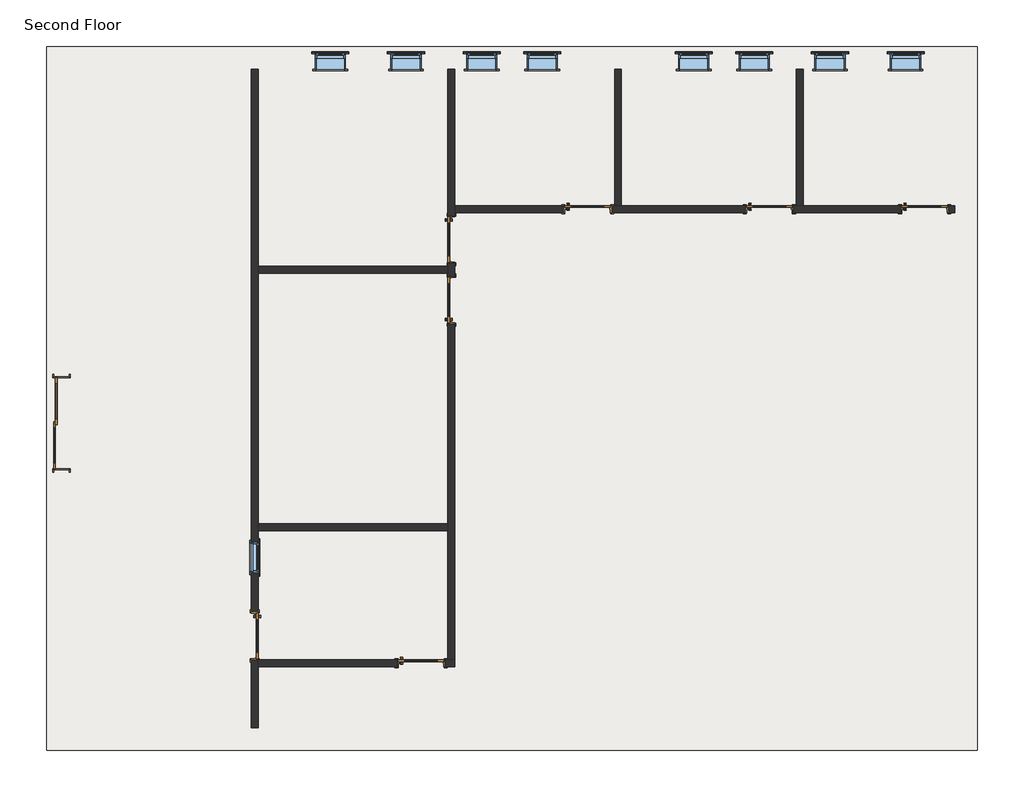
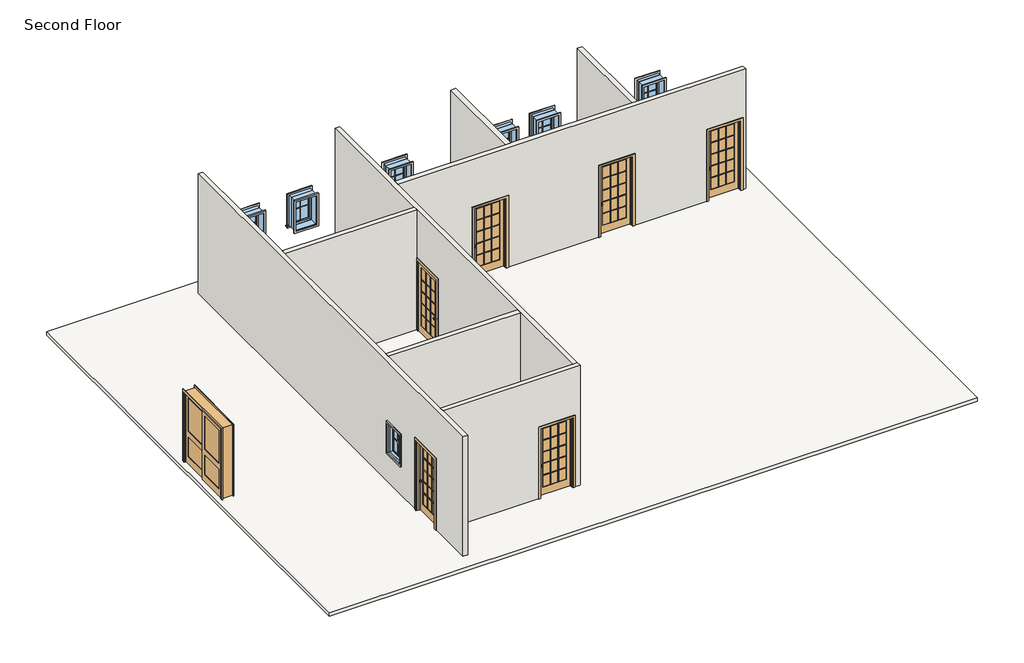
# One storey: 27 proxies, 9 windows, 8 doors, 8 walls, 1 slab.
"""IFC4 building model written with IfcOpenShell, lengths in millimetres."""

from ifc_helpers import new_model, si_unit, frame, origin, place, context, project, spatial, polyline, outline, extrude, faceted_brep, transform, mapped, element, save
from components import muntin_pattern_2x2_muntin_pattern_2x2_cf4092f1, muntin_pattern_2x2_muntin_pattern_2x2_49143b38, trim_window_exterior_flat_with_sill_a665a915, trim_window_exterior_flat_with_sill_4c72db77, trim_window_interior_flat_picture_frame_d485c387, trim_window_interior_flat_picture_frame_dfd23ff3, door_956c32c9, door_918c180d, door_79dd3e86, window_d7bc73cd, window_8e02f281, window_2fd3c40a

model = new_model("IFC4")

# Units and contexts
model_context = context("Model", 3, world=origin())
ifc_project = project(units=[si_unit("LENGTHUNIT", "METRE", prefix="MILLI")], contexts=[model_context])

# Site, building, storey
site = spatial("IfcSite", under=ifc_project)
building = spatial("IfcBuilding", under=site)
storey = spatial("IfcBuildingStorey", under=building, Name="Second Floor", Elevation=7315.2)

# Proxies
placement = place(None, origin())
muntin_pattern_2x2_muntin_pattern_2x2_shape = muntin_pattern_2x2_muntin_pattern_2x2_cf4092f1(model_context)
element("IfcBuildingElementProxy", 1, Name="Muntin Pattern_2x2 : Muntin Pattern_2x2", ObjectType="Muntin Pattern_2x2 : Muntin Pattern_2x2", at=placement, inside=storey, context=model_context, shape_type="MappedRepresentation", body=[
    mapped(muntin_pattern_2x2_muntin_pattern_2x2_shape, transform((-14168.6597136, 1858.8705992, 8299.45), x_axis=(0.0, -1.0, 0.0), y_axis=(1.0, 0.0, 0.0), z_axis=(0.0, 0.0, 1.0))),
])
element("IfcBuildingElementProxy", 2, Name="Muntin Pattern_2x2 : Muntin Pattern_2x2", ObjectType="Muntin Pattern_2x2 : Muntin Pattern_2x2", at=placement, inside=storey, context=model_context, shape_type="MappedRepresentation", body=[
    mapped(muntin_pattern_2x2_muntin_pattern_2x2_shape, transform((-1122.5847136, 11991.8830992, 8299.45), x_axis=(1.0, 0.0, 0.0), y_axis=(0.0, 1.0, 0.0), z_axis=(0.0, 0.0, 1.0))),
])
element("IfcBuildingElementProxy", 3, Name="Muntin Pattern_2x2 : Muntin Pattern_2x2", ObjectType="Muntin Pattern_2x2 : Muntin Pattern_2x2", at=placement, inside=storey, context=model_context, shape_type="MappedRepresentation", body=[
    mapped(muntin_pattern_2x2_muntin_pattern_2x2_shape, transform((-2646.5847136, 11991.8830992, 8299.45), x_axis=(1.0, 0.0, 0.0), y_axis=(0.0, 1.0, 0.0), z_axis=(0.0, 0.0, 1.0))),
])
element("IfcBuildingElementProxy", 4, Name="Muntin Pattern_2x2 : Muntin Pattern_2x2", ObjectType="Muntin Pattern_2x2 : Muntin Pattern_2x2", at=placement, inside=storey, context=model_context, shape_type="MappedRepresentation", body=[
    mapped(muntin_pattern_2x2_muntin_pattern_2x2_shape, transform((-4170.5847136, 11991.8830992, 8299.45), x_axis=(1.0, 0.0, 0.0), y_axis=(0.0, 1.0, 0.0), z_axis=(0.0, 0.0, 1.0))),
])
element("IfcBuildingElementProxy", 5, Name="Muntin Pattern_2x2 : Muntin Pattern_2x2", ObjectType="Muntin Pattern_2x2 : Muntin Pattern_2x2", at=placement, inside=storey, context=model_context, shape_type="MappedRepresentation", body=[
    mapped(muntin_pattern_2x2_muntin_pattern_2x2_shape, transform((-5389.7847136, 11991.8830992, 8299.45), x_axis=(1.0, 0.0, 0.0), y_axis=(0.0, 1.0, 0.0), z_axis=(0.0, 0.0, 1.0))),
])
muntin_pattern_2x2_muntin_pattern_2x2_2_shape = muntin_pattern_2x2_muntin_pattern_2x2_49143b38(model_context)
element("IfcBuildingElementProxy", 6, Name="Muntin Pattern_2x2 : Muntin Pattern_2x2", ObjectType="Muntin Pattern_2x2 : Muntin Pattern_2x2", at=placement, inside=storey, context=model_context, shape_type="MappedRepresentation", body=[
    mapped(muntin_pattern_2x2_muntin_pattern_2x2_2_shape, transform((-12704.9847136, 11991.8830992, 8299.45), x_axis=(-1.0, 0.0, 0.0), y_axis=(0.0, -1.0, 0.0), z_axis=(0.0, 0.0, 1.0))),
])
element("IfcBuildingElementProxy", 7, Name="Muntin Pattern_2x2 : Muntin Pattern_2x2", ObjectType="Muntin Pattern_2x2 : Muntin Pattern_2x2", at=placement, inside=storey, context=model_context, shape_type="MappedRepresentation", body=[
    mapped(muntin_pattern_2x2_muntin_pattern_2x2_2_shape, transform((-11180.9847136, 11991.8830992, 8299.45), x_axis=(-1.0, 0.0, 0.0), y_axis=(0.0, -1.0, 0.0), z_axis=(0.0, 0.0, 1.0))),
])
element("IfcBuildingElementProxy", 8, Name="Muntin Pattern_2x2 : Muntin Pattern_2x2", ObjectType="Muntin Pattern_2x2 : Muntin Pattern_2x2", at=placement, inside=storey, context=model_context, shape_type="MappedRepresentation", body=[
    mapped(muntin_pattern_2x2_muntin_pattern_2x2_2_shape, transform((-9656.9847136, 11991.8830992, 8299.45), x_axis=(-1.0, 0.0, 0.0), y_axis=(0.0, -1.0, 0.0), z_axis=(0.0, 0.0, 1.0))),
])
element("IfcBuildingElementProxy", 9, Name="Muntin Pattern_2x2 : Muntin Pattern_2x2", ObjectType="Muntin Pattern_2x2 : Muntin Pattern_2x2", at=placement, inside=storey, context=model_context, shape_type="MappedRepresentation", body=[
    mapped(muntin_pattern_2x2_muntin_pattern_2x2_2_shape, transform((-8437.7847136, 11991.8830992, 8299.45), x_axis=(-1.0, 0.0, 0.0), y_axis=(0.0, -1.0, 0.0), z_axis=(0.0, 0.0, 1.0))),
])
trim_window_exterior_flat_with_sill_shape = trim_window_exterior_flat_with_sill_a665a915(model_context)
element("IfcBuildingElementProxy", 10, Name="Trim-Window-Exterior-Flat : with Sill", ObjectType="Trim-Window-Exterior-Flat : with Sill", at=placement, inside=storey, context=model_context, shape_type="MappedRepresentation", body=[
    mapped(trim_window_exterior_flat_with_sill_shape, transform((-14159.1347136, 1858.8705992, 9144.0), x_axis=(0.0, 1.0, 0.0), y_axis=(0.0, 0.0, 1.0), z_axis=(1.0, 0.0, 0.0))),
])
element("IfcBuildingElementProxy", 11, Name="Trim-Window-Exterior-Flat : with Sill", ObjectType="Trim-Window-Exterior-Flat : with Sill", at=placement, inside=storey, context=model_context, shape_type="MappedRepresentation", body=[
    mapped(trim_window_exterior_flat_with_sill_shape, transform((-1122.5847136, 12001.4080992, 9144.0), x_axis=(-1.0, 0.0, 0.0), y_axis=(0.0, 0.0, 1.0), z_axis=(0.0, 1.0, 0.0))),
])
element("IfcBuildingElementProxy", 12, Name="Trim-Window-Exterior-Flat : with Sill", ObjectType="Trim-Window-Exterior-Flat : with Sill", at=placement, inside=storey, context=model_context, shape_type="MappedRepresentation", body=[
    mapped(trim_window_exterior_flat_with_sill_shape, transform((-2646.5847136, 12001.4080992, 9144.0), x_axis=(-1.0, 0.0, 0.0), y_axis=(0.0, 0.0, 1.0), z_axis=(0.0, 1.0, 0.0))),
])
element("IfcBuildingElementProxy", 13, Name="Trim-Window-Exterior-Flat : with Sill", ObjectType="Trim-Window-Exterior-Flat : with Sill", at=placement, inside=storey, context=model_context, shape_type="MappedRepresentation", body=[
    mapped(trim_window_exterior_flat_with_sill_shape, transform((-4170.5847136, 12001.4080992, 9144.0), x_axis=(-1.0, 0.0, 0.0), y_axis=(0.0, 0.0, 1.0), z_axis=(0.0, 1.0, 0.0))),
])
element("IfcBuildingElementProxy", 14, Name="Trim-Window-Exterior-Flat : with Sill", ObjectType="Trim-Window-Exterior-Flat : with Sill", at=placement, inside=storey, context=model_context, shape_type="MappedRepresentation", body=[
    mapped(trim_window_exterior_flat_with_sill_shape, transform((-5389.7847136, 12001.4080992, 9144.0), x_axis=(-1.0, 0.0, 0.0), y_axis=(0.0, 0.0, 1.0), z_axis=(0.0, 1.0, 0.0))),
])
trim_window_exterior_flat_with_sill_2_shape = trim_window_exterior_flat_with_sill_4c72db77(model_context)
element("IfcBuildingElementProxy", 15, Name="Trim-Window-Exterior-Flat : with Sill", ObjectType="Trim-Window-Exterior-Flat : with Sill", at=placement, inside=storey, context=model_context, shape_type="MappedRepresentation", body=[
    mapped(trim_window_exterior_flat_with_sill_2_shape, transform((-12704.9847136, 12001.4080992, 9144.0), x_axis=(1.0, 0.0, 0.0), y_axis=(0.0, 0.0, -1.0), z_axis=(0.0, 1.0, 0.0))),
])
element("IfcBuildingElementProxy", 16, Name="Trim-Window-Exterior-Flat : with Sill", ObjectType="Trim-Window-Exterior-Flat : with Sill", at=placement, inside=storey, context=model_context, shape_type="MappedRepresentation", body=[
    mapped(trim_window_exterior_flat_with_sill_2_shape, transform((-11180.9847136, 12001.4080992, 9144.0), x_axis=(1.0, 0.0, 0.0), y_axis=(0.0, 0.0, -1.0), z_axis=(0.0, 1.0, 0.0))),
])
element("IfcBuildingElementProxy", 17, Name="Trim-Window-Exterior-Flat : with Sill", ObjectType="Trim-Window-Exterior-Flat : with Sill", at=placement, inside=storey, context=model_context, shape_type="MappedRepresentation", body=[
    mapped(trim_window_exterior_flat_with_sill_2_shape, transform((-9656.9847136, 12001.4080992, 9144.0), x_axis=(1.0, 0.0, 0.0), y_axis=(0.0, 0.0, -1.0), z_axis=(0.0, 1.0, 0.0))),
])
element("IfcBuildingElementProxy", 18, Name="Trim-Window-Exterior-Flat : with Sill", ObjectType="Trim-Window-Exterior-Flat : with Sill", at=placement, inside=storey, context=model_context, shape_type="MappedRepresentation", body=[
    mapped(trim_window_exterior_flat_with_sill_2_shape, transform((-8437.7847136, 12001.4080992, 9144.0), x_axis=(1.0, 0.0, 0.0), y_axis=(0.0, 0.0, -1.0), z_axis=(0.0, 1.0, 0.0))),
])
trim_window_interior_flat_picture_frame_shape = trim_window_interior_flat_picture_frame_d485c387(model_context)
element("IfcBuildingElementProxy", 19, Name="Trim-Window-Interior-Flat : Picture Frame", ObjectType="Trim-Window-Interior-Flat : Picture Frame", at=placement, inside=storey, context=model_context, shape_type="MappedRepresentation", body=[
    mapped(trim_window_interior_flat_picture_frame_shape, transform((-14298.8347136, 1858.8705992, 9144.0), x_axis=(0.0, -1.0, 0.0), y_axis=(0.0, 0.0, 1.0), z_axis=(-1.0, 0.0, 0.0))),
])
element("IfcBuildingElementProxy", 20, Name="Trim-Window-Interior-Flat : Picture Frame", ObjectType="Trim-Window-Interior-Flat : Picture Frame", at=placement, inside=storey, context=model_context, shape_type="MappedRepresentation", body=[
    mapped(trim_window_interior_flat_picture_frame_shape, transform((-1122.5847136, 11690.2580992, 9144.0), x_axis=(1.0, 0.0, 0.0), y_axis=(0.0, 0.0, 1.0), z_axis=(0.0, -1.0, 0.0))),
])
element("IfcBuildingElementProxy", 21, Name="Trim-Window-Interior-Flat : Picture Frame", ObjectType="Trim-Window-Interior-Flat : Picture Frame", at=placement, inside=storey, context=model_context, shape_type="MappedRepresentation", body=[
    mapped(trim_window_interior_flat_picture_frame_shape, transform((-2646.5847136, 11690.2580992, 9144.0), x_axis=(1.0, 0.0, 0.0), y_axis=(0.0, 0.0, 1.0), z_axis=(0.0, -1.0, 0.0))),
])
element("IfcBuildingElementProxy", 22, Name="Trim-Window-Interior-Flat : Picture Frame", ObjectType="Trim-Window-Interior-Flat : Picture Frame", at=placement, inside=storey, context=model_context, shape_type="MappedRepresentation", body=[
    mapped(trim_window_interior_flat_picture_frame_shape, transform((-4170.5847136, 11690.2580992, 9144.0), x_axis=(1.0, 0.0, 0.0), y_axis=(0.0, 0.0, 1.0), z_axis=(0.0, -1.0, 0.0))),
])
element("IfcBuildingElementProxy", 23, Name="Trim-Window-Interior-Flat : Picture Frame", ObjectType="Trim-Window-Interior-Flat : Picture Frame", at=placement, inside=storey, context=model_context, shape_type="MappedRepresentation", body=[
    mapped(trim_window_interior_flat_picture_frame_shape, transform((-5389.7847136, 11690.2580992, 9144.0), x_axis=(1.0, 0.0, 0.0), y_axis=(0.0, 0.0, 1.0), z_axis=(0.0, -1.0, 0.0))),
])
trim_window_interior_flat_picture_frame_2_shape = trim_window_interior_flat_picture_frame_dfd23ff3(model_context)
element("IfcBuildingElementProxy", 24, Name="Trim-Window-Interior-Flat : Picture Frame", ObjectType="Trim-Window-Interior-Flat : Picture Frame", at=placement, inside=storey, context=model_context, shape_type="MappedRepresentation", body=[
    mapped(trim_window_interior_flat_picture_frame_2_shape, transform((-12704.9847136, 11690.2580992, 9144.0), x_axis=(-1.0, 0.0, 0.0), y_axis=(0.0, 0.0, -1.0), z_axis=(0.0, -1.0, 0.0))),
])
element("IfcBuildingElementProxy", 25, Name="Trim-Window-Interior-Flat : Picture Frame", ObjectType="Trim-Window-Interior-Flat : Picture Frame", at=placement, inside=storey, context=model_context, shape_type="MappedRepresentation", body=[
    mapped(trim_window_interior_flat_picture_frame_2_shape, transform((-11180.9847136, 11690.2580992, 9144.0), x_axis=(-1.0, 0.0, 0.0), y_axis=(0.0, 0.0, -1.0), z_axis=(0.0, -1.0, 0.0))),
])
element("IfcBuildingElementProxy", 26, Name="Trim-Window-Interior-Flat : Picture Frame", ObjectType="Trim-Window-Interior-Flat : Picture Frame", at=placement, inside=storey, context=model_context, shape_type="MappedRepresentation", body=[
    mapped(trim_window_interior_flat_picture_frame_2_shape, transform((-9656.9847136, 11690.2580992, 9144.0), x_axis=(-1.0, 0.0, 0.0), y_axis=(0.0, 0.0, -1.0), z_axis=(0.0, -1.0, 0.0))),
])
element("IfcBuildingElementProxy", 27, Name="Trim-Window-Interior-Flat : Picture Frame", ObjectType="Trim-Window-Interior-Flat : Picture Frame", at=placement, inside=storey, context=model_context, shape_type="MappedRepresentation", body=[
    mapped(trim_window_interior_flat_picture_frame_2_shape, transform((-8437.7847136, 11690.2580992, 9144.0), x_axis=(-1.0, 0.0, 0.0), y_axis=(0.0, 0.0, -1.0), z_axis=(0.0, -1.0, 0.0))),
])

# Doors
door_shape = door_956c32c9(model_context)
element("IfcDoor", 28, ObjectType="Door-Interior-Double-Sliding-2_Panel-Wood : 72\" x 84\"", at=placement, inside=storey, context=model_context, shape_type="MappedRepresentation", body=[
    mapped(door_shape, transform((-18123.1222136, 4559.7577587, 7315.2), x_axis=(0.0, 1.0, 0.0), y_axis=(-1.0, 0.0, 0.0), z_axis=(0.0, 0.0, 1.0))),
])
door_2_shape = door_918c180d(model_context)
element("IfcDoor", 29, ObjectType="Door-Interior-Single-Full Glass-Wood : 36\" x 84\"", at=placement, inside=storey, context=model_context, shape_type="MappedRepresentation", body=[
    mapped(door_2_shape, transform((-14225.8097136, 277.7205992, 7315.2), x_axis=(0.0, -1.0, 0.0), y_axis=(1.0, 0.0, 0.0), z_axis=(0.0, 0.0, 1.0))),
])
element("IfcDoor", 30, ObjectType="Door-Interior-Single-Full Glass-Wood : 36\" x 84\"", at=placement, inside=storey, context=model_context, shape_type="MappedRepresentation", body=[
    mapped(door_2_shape, transform((-10269.7597136, 7040.4705992, 7315.2), x_axis=(0.0, 1.0, 0.0), y_axis=(-1.0, 0.0, 0.0), z_axis=(0.0, 0.0, 1.0))),
])
element("IfcDoor", 31, ObjectType="Door-Interior-Single-Full Glass-Wood : 36\" x 84\"", at=placement, inside=storey, context=model_context, shape_type="MappedRepresentation", body=[
    mapped(door_2_shape, transform((-7523.3847136, 8872.4455992, 7315.2), x_axis=(1.0, 0.0, 0.0), y_axis=(0.0, 1.0, 0.0), z_axis=(0.0, 0.0, 1.0))),
])
element("IfcDoor", 32, ObjectType="Door-Interior-Single-Full Glass-Wood : 36\" x 84\"", at=placement, inside=storey, context=model_context, shape_type="MappedRepresentation", body=[
    mapped(door_2_shape, transform((-3865.7847136, 8872.4455992, 7315.2), x_axis=(1.0, 0.0, 0.0), y_axis=(0.0, 1.0, 0.0), z_axis=(0.0, 0.0, 1.0))),
])
element("IfcDoor", 33, ObjectType="Door-Interior-Single-Full Glass-Wood : 36\" x 84\"", at=placement, inside=storey, context=model_context, shape_type="MappedRepresentation", body=[
    mapped(door_2_shape, transform((-739.9972136, 8872.4455992, 7315.2), x_axis=(1.0, 0.0, 0.0), y_axis=(0.0, 1.0, 0.0), z_axis=(0.0, 0.0, 1.0))),
])
element("IfcDoor", 34, ObjectType="Door-Interior-Single-Full Glass-Wood : 36\" x 84\"", at=placement, inside=storey, context=model_context, shape_type="MappedRepresentation", body=[
    mapped(door_2_shape, transform((-10876.1847136, -271.5544008, 7315.2), x_axis=(1.0, 0.0, 0.0), y_axis=(0.0, 1.0, 0.0), z_axis=(0.0, 0.0, 1.0))),
])
door_3_shape = door_79dd3e86(model_context)
element("IfcDoor", 35, ObjectType="Door-Interior-Single-Full Glass-Wood : 36\" x 84\"", at=placement, inside=storey, context=model_context, shape_type="MappedRepresentation", body=[
    mapped(door_3_shape, transform((-10269.7597136, 8259.6705992, 7315.2), x_axis=(0.0, -1.0, 0.0), y_axis=(1.0, 0.0, 0.0), z_axis=(0.0, 0.0, 1.0))),
])

# Slab
element("IfcSlab", 36, ObjectType="LW Concrete on Metal Deck", at=placement, inside=storey, context=model_context, shape_type="SweptSolid", body=[
    extrude(outline(polyline([(323.6277864, 12144.2830992), (323.6277864, -2025.7419008), (-18418.3972136, -2025.7419008), (-18418.3972136, 12144.2830992), (323.6277864, 12144.2830992)])), frame((0.0, 0.0, 7210.425), z_axis=(0.0, 0.0, 1.0), x_axis=(1.0, 0.0, 0.0)), (0.0, 0.0, 1.0), 104.775),
])

# Walls
element("IfcWall", 37, ObjectType="Interior - 5 1/2\" Partition (1-hr)", at=placement, inside=storey, context=model_context, shape_type="Brep", body=[
    faceted_brep([(-14298.8347136, -1571.7169008, 10972.8), (-14298.8347136, 11690.2580992, 10972.8), (-14298.8347136, 11690.2580992, 7315.2), (-14298.8347136, 760.3205992, 7315.2), (-14298.8347136, 760.3205992, 9474.2), (-14298.8347136, -204.8794008, 9474.2), (-14298.8347136, -204.8794008, 7315.2), (-14298.8347136, -1571.7169008, 7315.2), (-14298.8347136, 1554.0705992, 9144.0), (-14298.8347136, 1554.0705992, 8229.6), (-14298.8347136, 2163.6705992, 8229.6), (-14298.8347136, 2163.6705992, 9144.0), (-14159.1347136, 11690.2580992, 10972.8), (-14159.1347136, 7719.9205992, 10972.8), (-14159.1347136, 7580.2205992, 10972.8), (-14159.1347136, 2538.3205992, 10972.8), (-14159.1347136, 2398.6205992, 10972.8), (-14159.1347136, -204.8794008, 10972.8), (-14159.1347136, -344.5794008, 10972.8), (-14159.1347136, -1571.7169008, 10972.8), (-14159.1347136, -1571.7169008, 7315.2), (-14159.1347136, -344.5794008, 7315.2), (-14159.1347136, -204.8794008, 7315.2), (-14159.1347136, -204.8794008, 9474.2), (-14159.1347136, 760.3205992, 9474.2), (-14159.1347136, 760.3205992, 7315.2), (-14159.1347136, 2398.6205992, 7315.2), (-14159.1347136, 2538.3205992, 7315.2), (-14159.1347136, 7580.2205992, 7315.2), (-14159.1347136, 7719.9205992, 7315.2), (-14159.1347136, 11690.2580992, 7315.2), (-14159.1347136, 1554.0705992, 9144.0), (-14159.1347136, 2163.6705992, 9144.0), (-14159.1347136, 2163.6705992, 8229.6), (-14159.1347136, 1554.0705992, 8229.6)], [[[0, 1, 2, 3, 4, 5, 6, 7], [8, 9, 10, 11]], [[12, 13, 14, 15, 16, 17, 18, 19, 20, 21, 22, 23, 24, 25, 26, 27, 28, 29, 30], [31, 32, 33, 34]], [[2, 30, 29, 28, 27, 26, 25, 3]], [[20, 7, 6, 22, 21]], [[1, 0, 19, 18, 17, 16, 15, 14, 13, 12]], [[5, 23, 22, 6]], [[23, 5, 4, 24]], [[24, 4, 3, 25]], [[9, 8, 31, 34]], [[10, 9, 34, 33]], [[11, 10, 33, 32]], [[8, 11, 32, 31]], [[2, 1, 12, 30]], [[0, 7, 20, 19]]]),
])
element("IfcWall", 38, ObjectType="Interior - 5 1/2\" Partition (1-hr)", at=placement, inside=storey, context=model_context, shape_type="Brep", body=[
    faceted_brep([(-10196.7347136, -344.5794008, 10972.8), (-14159.1347136, -344.5794008, 10972.8), (-14159.1347136, -344.5794008, 7315.2), (-11358.7847136, -344.5794008, 7315.2), (-11358.7847136, -344.5794008, 9474.2), (-10393.5847136, -344.5794008, 9474.2), (-10393.5847136, -344.5794008, 7315.2), (-10196.7347136, -344.5794008, 7315.2), (-14159.1347136, -204.8794008, 10972.8), (-10336.4347136, -204.8794008, 10972.8), (-10196.7347136, -204.8794008, 10972.8), (-10196.7347136, -204.8794008, 7315.2), (-10336.4347136, -204.8794008, 7315.2), (-10393.5847136, -204.8794008, 7315.2), (-10393.5847136, -204.8794008, 9474.2), (-11358.7847136, -204.8794008, 9474.2), (-11358.7847136, -204.8794008, 7315.2), (-14159.1347136, -204.8794008, 7315.2), (-14159.1347136, -204.8794008, 9474.2)], [[[0, 1, 2, 3, 4, 5, 6, 7]], [[8, 9, 10, 11, 12, 13, 14, 15, 16, 17, 18]], [[2, 17, 16, 3]], [[11, 7, 6, 13, 12]], [[1, 0, 10, 9, 8]], [[2, 1, 8, 18, 17]], [[0, 7, 11, 10]], [[5, 14, 13, 6]], [[14, 5, 4, 15]], [[15, 4, 3, 16]]]),
])
element("IfcWall", 39, ObjectType="Interior - 5 1/2\" Partition (1-hr)", at=placement, inside=storey, context=model_context, shape_type="Brep", body=[
    faceted_brep([(-10196.7347136, 11690.2580992, 10972.8), (-10196.7347136, 8939.1205992, 10972.8), (-10196.7347136, 8799.4205992, 10972.8), (-10196.7347136, -204.8794008, 10972.8), (-10196.7347136, -204.8794008, 7315.2), (-10196.7347136, 6557.8705992, 7315.2), (-10196.7347136, 6557.8705992, 9474.2), (-10196.7347136, 7523.0705992, 9474.2), (-10196.7347136, 7523.0705992, 7315.2), (-10196.7347136, 7777.0705992, 7315.2), (-10196.7347136, 7777.0705992, 9474.2), (-10196.7347136, 8742.2705992, 9474.2), (-10196.7347136, 8742.2705992, 7315.2), (-10196.7347136, 8799.4205992, 7315.2), (-10196.7347136, 8939.1205992, 7315.2), (-10196.7347136, 11690.2580992, 7315.2), (-10336.4347136, -204.8794008, 10972.8), (-10336.4347136, 2398.6205992, 10972.8), (-10336.4347136, 2538.3205992, 10972.8), (-10336.4347136, 7580.2205992, 10972.8), (-10336.4347136, 7719.9205992, 10972.8), (-10336.4347136, 11690.2580992, 10972.8), (-10336.4347136, 11690.2580992, 7315.2), (-10336.4347136, 8742.2705992, 7315.2), (-10336.4347136, 8742.2705992, 9474.2), (-10336.4347136, 7777.0705992, 9474.2), (-10336.4347136, 7777.0705992, 7315.2), (-10336.4347136, 7719.9205992, 7315.2), (-10336.4347136, 7580.2205992, 7315.2), (-10336.4347136, 7523.0705992, 7315.2), (-10336.4347136, 7523.0705992, 9474.2), (-10336.4347136, 6557.8705992, 9474.2), (-10336.4347136, 6557.8705992, 7315.2), (-10336.4347136, 2538.3205992, 7315.2), (-10336.4347136, 2398.6205992, 7315.2), (-10336.4347136, -204.8794008, 7315.2)], [[[0, 1, 2, 3, 4, 5, 6, 7, 8, 9, 10, 11, 12, 13, 14, 15]], [[16, 17, 18, 19, 20, 21, 22, 23, 24, 25, 26, 27, 28, 29, 30, 31, 32, 33, 34, 35]], [[4, 35, 34, 33, 32, 5]], [[8, 29, 28, 27, 26, 9]], [[22, 15, 14, 13, 12, 23]], [[3, 2, 1, 0, 21, 20, 19, 18, 17, 16]], [[4, 3, 16, 35]], [[7, 30, 29, 8]], [[30, 7, 6, 31]], [[31, 6, 5, 32]], [[25, 10, 9, 26]], [[10, 25, 24, 11]], [[11, 24, 23, 12]], [[0, 15, 22, 21]]]),
])
element("IfcWall", 40, ObjectType="Interior - 5 1/2\" Partition (1-hr)", at=placement, inside=storey, context=model_context, shape_type="Brep", body=[
    faceted_brep([(-10196.7347136, 8939.1205992, 10972.8), (-6983.6347136, 8939.1205992, 10972.8), (-6843.9347136, 8939.1205992, 10972.8), (-3326.0347136, 8939.1205992, 10972.8), (-3186.3347136, 8939.1205992, 10972.8), (-130.3972136, 8939.1205992, 10972.8), (-130.3972136, 8939.1205992, 7315.2), (-257.3972136, 8939.1205992, 7315.2), (-257.3972136, 8939.1205992, 9474.2), (-1222.5972136, 8939.1205992, 9474.2), (-1222.5972136, 8939.1205992, 7315.2), (-3186.3347136, 8939.1205992, 7315.2), (-3326.0347136, 8939.1205992, 7315.2), (-3383.1847136, 8939.1205992, 7315.2), (-3383.1847136, 8939.1205992, 9474.2), (-4348.3847136, 8939.1205992, 9474.2), (-4348.3847136, 8939.1205992, 7315.2), (-6843.9347136, 8939.1205992, 7315.2), (-6983.6347136, 8939.1205992, 7315.2), (-7040.7847136, 8939.1205992, 7315.2), (-7040.7847136, 8939.1205992, 9474.2), (-8005.9847136, 8939.1205992, 9474.2), (-8005.9847136, 8939.1205992, 7315.2), (-10196.7347136, 8939.1205992, 7315.2), (-130.3972136, 8799.4205992, 10972.8), (-10196.7347136, 8799.4205992, 10972.8), (-10196.7347136, 8799.4205992, 7315.2), (-8005.9847136, 8799.4205992, 7315.2), (-8005.9847136, 8799.4205992, 9474.2), (-7040.7847136, 8799.4205992, 9474.2), (-7040.7847136, 8799.4205992, 7315.2), (-4348.3847136, 8799.4205992, 7315.2), (-4348.3847136, 8799.4205992, 9474.2), (-3383.1847136, 8799.4205992, 9474.2), (-3383.1847136, 8799.4205992, 7315.2), (-1222.5972136, 8799.4205992, 7315.2), (-1222.5972136, 8799.4205992, 9474.2), (-257.3972136, 8799.4205992, 9474.2), (-257.3972136, 8799.4205992, 7315.2), (-130.3972136, 8799.4205992, 7315.2)], [[[0, 1, 2, 3, 4, 5, 6, 7, 8, 9, 10, 11, 12, 13, 14, 15, 16, 17, 18, 19, 20, 21, 22, 23]], [[24, 25, 26, 27, 28, 29, 30, 31, 32, 33, 34, 35, 36, 37, 38, 39]], [[26, 23, 22, 27]], [[30, 19, 18, 17, 16, 31]], [[34, 13, 12, 11, 10, 35]], [[6, 39, 38, 7]], [[5, 4, 3, 2, 1, 0, 25, 24]], [[0, 23, 26, 25]], [[29, 20, 19, 30]], [[20, 29, 28, 21]], [[21, 28, 27, 22]], [[33, 14, 13, 34]], [[14, 33, 32, 15]], [[15, 32, 31, 16]], [[37, 8, 7, 38]], [[8, 37, 36, 9]], [[9, 36, 35, 10]], [[6, 5, 24, 39]]]),
])
element("IfcWall", 41, ObjectType="Interior - 5 1/2\" Partition (1-hr)", at=placement, inside=storey, context=model_context, shape_type="SweptSolid", body=[
    extrude(outline(polyline([(-10336.4347136, 7580.2205992), (-14159.1347136, 7580.2205992), (-14159.1347136, 7719.9205992), (-10336.4347136, 7719.9205992), (-10336.4347136, 7580.2205992)])), frame((0.0, 0.0, 7315.2), z_axis=(0.0, 0.0, 1.0), x_axis=(1.0, 0.0, 0.0)), (0.0, 0.0, 1.0), 3657.6),
])
element("IfcWall", 42, ObjectType="Interior - 5 1/2\" Partition (1-hr)", at=placement, inside=storey, context=model_context, shape_type="SweptSolid", body=[
    extrude(outline(polyline([(-10336.4347136, 2398.6205992), (-14159.1347136, 2398.6205992), (-14159.1347136, 2538.3205992), (-10336.4347136, 2538.3205992), (-10336.4347136, 2398.6205992)])), frame((0.0, 0.0, 7315.2), z_axis=(0.0, 0.0, 1.0), x_axis=(1.0, 0.0, 0.0)), (0.0, 0.0, 1.0), 3657.6),
])
element("IfcWall", 43, ObjectType="Interior - 5 1/2\" Partition (1-hr)", at=placement, inside=storey, context=model_context, shape_type="SweptSolid", body=[
    extrude(outline(polyline([(-3326.0347136, 8939.1205992), (-3326.0347136, 11690.2580992), (-3186.3347136, 11690.2580992), (-3186.3347136, 8939.1205992), (-3326.0347136, 8939.1205992)])), frame((0.0, 0.0, 7315.2), z_axis=(0.0, 0.0, 1.0), x_axis=(1.0, 0.0, 0.0)), (0.0, 0.0, 1.0), 3657.6),
])
element("IfcWall", 44, ObjectType="Interior - 5 1/2\" Partition (1-hr)", at=placement, inside=storey, context=model_context, shape_type="SweptSolid", body=[
    extrude(outline(polyline([(-6983.6347136, 8939.1205992), (-6983.6347136, 11690.2580992), (-6843.9347136, 11690.2580992), (-6843.9347136, 8939.1205992), (-6983.6347136, 8939.1205992)])), frame((0.0, 0.0, 7315.2), z_axis=(0.0, 0.0, 1.0), x_axis=(1.0, 0.0, 0.0)), (0.0, 0.0, 1.0), 3657.6),
])

# Windows
window_shape = window_d7bc73cd(model_context)
element("IfcWindow", 45, ObjectType="Window-Awning-Single : 24\" x 36\"", at=placement, inside=storey, context=model_context, shape_type="MappedRepresentation", body=[
    mapped(window_shape, transform((-14228.9847136, 1858.8705992, 7315.2), x_axis=(0.0, -1.0, 0.0), y_axis=(1.0, 0.0, 0.0), z_axis=(0.0, 0.0, 1.0))),
])
window_2_shape = window_8e02f281(model_context)
element("IfcWindow", 46, ObjectType="Window-Awning-Single : 24\" x 36\"", at=placement, inside=storey, context=model_context, shape_type="MappedRepresentation", body=[
    mapped(window_2_shape, transform((-12704.9847136, 11845.8330992, 7315.2), x_axis=(-1.0, 0.0, 0.0), y_axis=(0.0, -1.0, 0.0), z_axis=(0.0, 0.0, 1.0))),
])
element("IfcWindow", 47, ObjectType="Window-Awning-Single : 24\" x 36\"", at=placement, inside=storey, context=model_context, shape_type="MappedRepresentation", body=[
    mapped(window_2_shape, transform((-11180.9847136, 11845.8330992, 7315.2), x_axis=(-1.0, 0.0, 0.0), y_axis=(0.0, -1.0, 0.0), z_axis=(0.0, 0.0, 1.0))),
])
element("IfcWindow", 48, ObjectType="Window-Awning-Single : 24\" x 36\"", at=placement, inside=storey, context=model_context, shape_type="MappedRepresentation", body=[
    mapped(window_2_shape, transform((-9656.9847136, 11845.8330992, 7315.2), x_axis=(-1.0, 0.0, 0.0), y_axis=(0.0, -1.0, 0.0), z_axis=(0.0, 0.0, 1.0))),
])
element("IfcWindow", 49, ObjectType="Window-Awning-Single : 24\" x 36\"", at=placement, inside=storey, context=model_context, shape_type="MappedRepresentation", body=[
    mapped(window_2_shape, transform((-8437.7847136, 11845.8330992, 7315.2), x_axis=(-1.0, 0.0, 0.0), y_axis=(0.0, -1.0, 0.0), z_axis=(0.0, 0.0, 1.0))),
])
window_3_shape = window_2fd3c40a(model_context)
element("IfcWindow", 50, ObjectType="Window-Awning-Single : 24\" x 36\"", at=placement, inside=storey, context=model_context, shape_type="MappedRepresentation", body=[
    mapped(window_3_shape, transform((-1122.5847136, 11845.8330992, 7315.2), x_axis=(1.0, 0.0, 0.0), y_axis=(0.0, 1.0, 0.0), z_axis=(0.0, 0.0, 1.0))),
])
element("IfcWindow", 51, ObjectType="Window-Awning-Single : 24\" x 36\"", at=placement, inside=storey, context=model_context, shape_type="MappedRepresentation", body=[
    mapped(window_3_shape, transform((-2646.5847136, 11845.8330992, 7315.2), x_axis=(1.0, 0.0, 0.0), y_axis=(0.0, 1.0, 0.0), z_axis=(0.0, 0.0, 1.0))),
])
element("IfcWindow", 52, ObjectType="Window-Awning-Single : 24\" x 36\"", at=placement, inside=storey, context=model_context, shape_type="MappedRepresentation", body=[
    mapped(window_3_shape, transform((-4170.5847136, 11845.8330992, 7315.2), x_axis=(1.0, 0.0, 0.0), y_axis=(0.0, 1.0, 0.0), z_axis=(0.0, 0.0, 1.0))),
])
element("IfcWindow", 53, ObjectType="Window-Awning-Single : 24\" x 36\"", at=placement, inside=storey, context=model_context, shape_type="MappedRepresentation", body=[
    mapped(window_3_shape, transform((-5389.7847136, 11845.8330992, 7315.2), x_axis=(1.0, 0.0, 0.0), y_axis=(0.0, 1.0, 0.0), z_axis=(0.0, 0.0, 1.0))),
])

save(model, "model.ifc")
